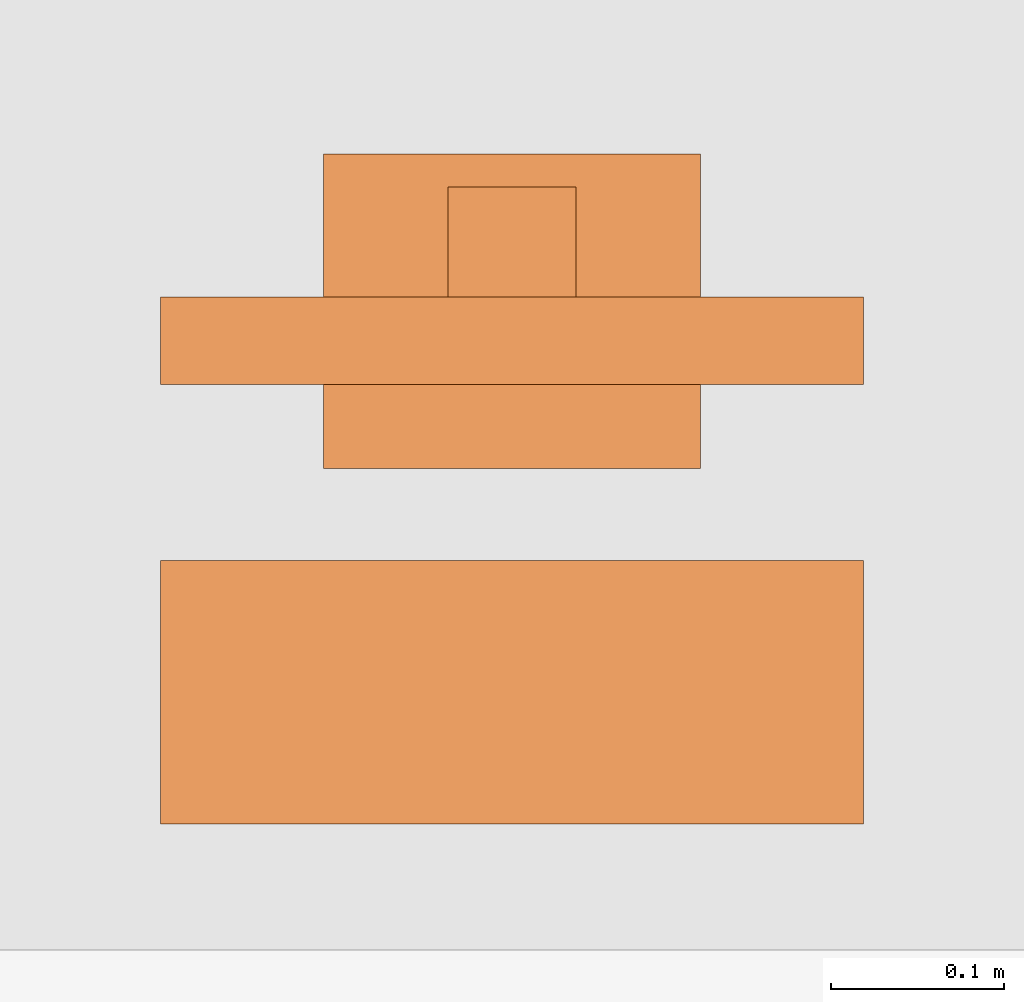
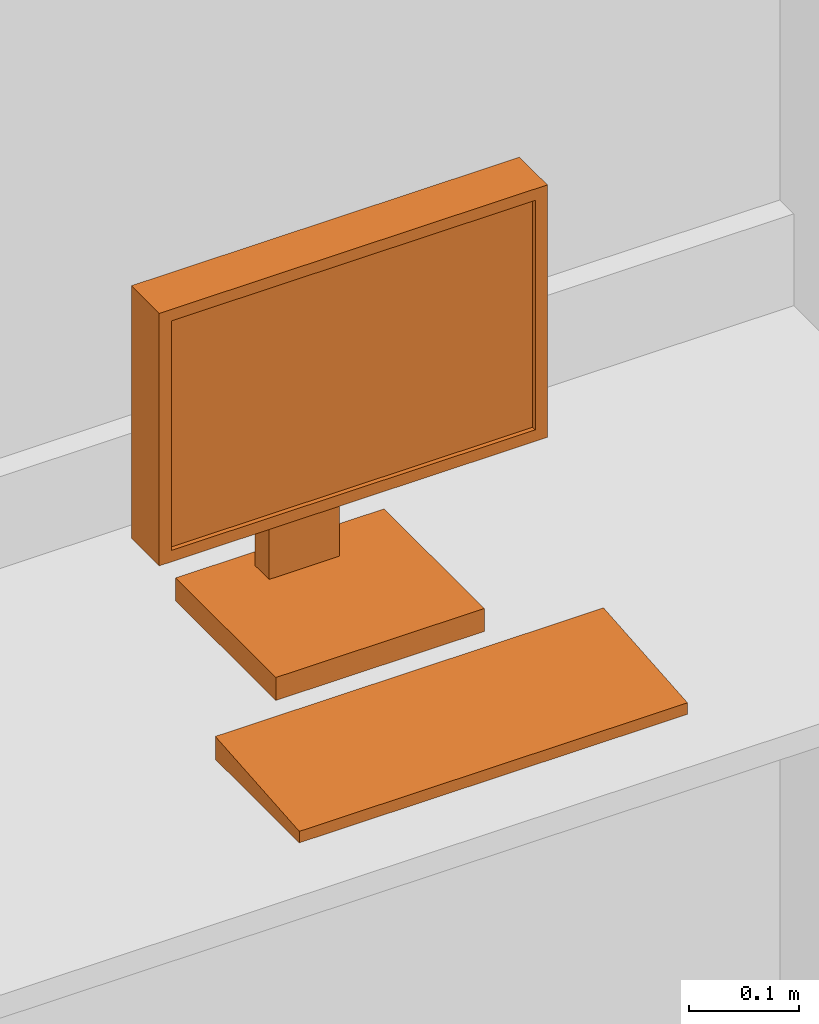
# One storey, part 8 of 8: 1 proxy.
"""IFC2X3 building model written with IfcOpenShell, lengths in feet."""

from ifc_helpers import new_model, entity, si_unit, converted_unit, derived_unit, direction, frame, origin, place, context, subcontext, project, spatial, faceted_brep, source, transform, mapped, type_object, type_shapes, element, save


model = new_model("IFC2X3")

# Units and contexts
model_context = context("Model", 3, precision=0.0001, world=origin(), true_north=direction((6.12303176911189e-17, 1.0)))
body_context = subcontext(model_context, "Body", "Model", "MODEL_VIEW")
ifc_project = project(units=[converted_unit("LENGTHUNIT", "FOOT", entity("IfcRatioMeasure", 0.3048), si_unit("LENGTHUNIT", "METRE"), dimensions=[1, 0, 0, 0, 0, 0, 0]), converted_unit("AREAUNIT", "SQUARE FOOT", entity("IfcRatioMeasure", 0.09290304), si_unit("AREAUNIT", "SQUARE_METRE"), dimensions=[2, 0, 0, 0, 0, 0, 0]), converted_unit("VOLUMEUNIT", "CUBIC FOOT", entity("IfcRatioMeasure", 0.028316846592), si_unit("VOLUMEUNIT", "CUBIC_METRE"), dimensions=[3, 0, 0, 0, 0, 0, 0]), converted_unit("PLANEANGLEUNIT", "DEGREE", entity("IfcRatioMeasure", 0.0174532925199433), si_unit("PLANEANGLEUNIT", "RADIAN"), dimensions=[0, 0, 0, 0, 0, 0, 0]), si_unit("MASSUNIT", "GRAM", prefix="KILO"), derived_unit("MASSDENSITYUNIT", [(si_unit("MASSUNIT", "GRAM", prefix="KILO"), 1), (si_unit("LENGTHUNIT", "METRE"), -3)]), si_unit("TIMEUNIT", "SECOND"), si_unit("FREQUENCYUNIT", "HERTZ"), si_unit("THERMODYNAMICTEMPERATUREUNIT", "DEGREE_CELSIUS"), derived_unit("THERMALTRANSMITTANCEUNIT", [(si_unit("MASSUNIT", "GRAM", prefix="KILO"), 1), (si_unit("THERMODYNAMICTEMPERATUREUNIT", "KELVIN"), -1), (si_unit("TIMEUNIT", "SECOND"), -3)]), derived_unit("VOLUMETRICFLOWRATEUNIT", [(si_unit("LENGTHUNIT", "METRE"), 3), (si_unit("TIMEUNIT", "SECOND"), -1)]), si_unit("ELECTRICCURRENTUNIT", "AMPERE"), si_unit("ELECTRICVOLTAGEUNIT", "VOLT"), si_unit("POWERUNIT", "WATT"), si_unit("FORCEUNIT", "NEWTON"), si_unit("ILLUMINANCEUNIT", "LUX"), si_unit("LUMINOUSFLUXUNIT", "LUMEN"), si_unit("LUMINOUSINTENSITYUNIT", "CANDELA"), derived_unit("USERDEFINED", [(si_unit("MASSUNIT", "GRAM", prefix="KILO"), -1), (si_unit("LENGTHUNIT", "METRE"), -2), (si_unit("TIMEUNIT", "SECOND"), 3), (si_unit("LUMINOUSFLUXUNIT", "LUMEN"), 1)]), derived_unit("LINEARVELOCITYUNIT", [(si_unit("LENGTHUNIT", "METRE"), 1), (si_unit("TIMEUNIT", "SECOND"), -1)]), si_unit("PRESSUREUNIT", "PASCAL"), derived_unit("USERDEFINED", [(si_unit("LENGTHUNIT", "METRE"), -2), (si_unit("MASSUNIT", "GRAM", prefix="KILO"), 1), (si_unit("TIMEUNIT", "SECOND"), -2)])], contexts=[model_context])

# Site, building, storey, space
site_placement = place(None, origin())
site = spatial("IfcSite", under=ifc_project, at=site_placement, Name="Default", CompositionType="ELEMENT")
building_placement = place(site_placement, origin())
building = spatial("IfcBuilding", under=site, at=building_placement, Name="EYE CLINIC:  OPTHALMOLOGY AND OPTOMETRY SERVICES (Ch. 233)", CompositionType="ELEMENT")
storey_placement = place(building_placement, origin())
storey = spatial("IfcBuildingStorey", under=building, at=storey_placement, Name="DATUM", CompositionType="ELEMENT", Elevation=0.0)
space_placement = place(storey_placement, origin())
space = spatial("IfcSpace", under=storey, at=space_placement, Name="(OPFD1)", CompositionType="ELEMENT", InteriorOrExteriorSpace="INTERNAL")

# Proxy
building_element_proxy_type = type_object("IfcBuildingElementProxyType", Name="M1801 - Computer, Microprocessing, With Flat Panel Monitor", PredefinedType="NOTDEFINED")
shared_shape = source(origin(), body_context, "Body", "Brep", [
    faceted_brep([(0.666666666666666, 0.437223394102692, 1.41666666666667), (-0.666666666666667, 0.437223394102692, 1.41666666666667), (-0.666666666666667, 0.271109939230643, 1.41666666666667), (0.666666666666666, 0.271109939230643, 1.41666666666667), (0.666666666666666, 0.437223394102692, 0.500000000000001), (0.666666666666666, 0.271109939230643, 0.500000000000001), (-0.666666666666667, 0.271109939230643, 0.500000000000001), (-0.666666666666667, 0.437223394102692, 0.500000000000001), (-0.625, 0.271109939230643, 1.375), (0.625, 0.271109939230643, 1.375), (0.625, 0.271109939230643, 0.541666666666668), (-0.625, 0.271109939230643, 0.541666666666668), (0.625, 0.286812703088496, 1.375), (-0.625, 0.286812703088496, 1.375), (0.625, 0.286812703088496, 0.541666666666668), (-0.625, 0.286812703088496, 0.541666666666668)], [[[0, 1, 2, 3]], [[4, 5, 6, 7]], [[1, 0, 4, 7]], [[2, 1, 7, 6]], [[3, 2, 6, 5], [8, 9, 10, 11]], [[0, 3, 5, 4]], [[12, 9, 8, 13]], [[14, 15, 11, 10]], [[12, 13, 15, 14]], [[13, 8, 11, 15]], [[9, 12, 14, 10]]]),
    faceted_brep([(0.358011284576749, 0.111770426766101, 0.0833333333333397), (0.358011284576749, 0.111770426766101, 0.0), (0.358011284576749, 0.708333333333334, 0.0), (0.358011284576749, 0.708333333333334, 0.0833333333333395), (-0.358011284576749, 0.708333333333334, 0.0833333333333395), (-0.358011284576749, 0.708333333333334, 0.0), (-0.358011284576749, 0.111770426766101, 0.0), (-0.358011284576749, 0.111770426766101, 0.0833333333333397), (0.12128795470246, 0.645556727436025, 0.104166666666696), (0.12128795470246, 0.645556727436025, 0.0833333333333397), (-0.12128795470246, 0.645556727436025, 0.0833333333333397), (-0.12128795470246, 0.645556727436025, 0.104166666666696), (0.12128795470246, 0.645556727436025, 0.958333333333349), (-0.12128795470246, 0.645556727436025, 0.958333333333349), (0.12128795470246, 0.437223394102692, 0.958333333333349), (-0.12128795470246, 0.437223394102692, 0.958333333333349), (0.12128795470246, 0.437223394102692, 0.791666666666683), (-0.12128795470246, 0.437223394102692, 0.791666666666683), (0.12128795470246, 0.562223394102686, 0.791666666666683), (-0.12128795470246, 0.562223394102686, 0.791666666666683), (0.12128795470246, 0.562223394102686, 0.0833333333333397), (-0.12128795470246, 0.562223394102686, 0.0833333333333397)], [[[0, 1, 2, 3]], [[4, 5, 6, 7]], [[8, 9, 10, 11]], [[12, 8, 11, 13]], [[14, 12, 13, 15]], [[16, 14, 15, 17]], [[18, 16, 17, 19]], [[20, 18, 19, 21]], [[0, 3, 4, 7], [9, 20, 21, 10]], [[1, 0, 7, 6]], [[2, 1, 6, 5]], [[3, 2, 5, 4]], [[20, 9, 8, 12, 14, 16, 18]], [[10, 21, 19, 17, 15, 13, 11]]]),
    faceted_brep([(0.666666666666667, -0.5625, 0.0), (0.666666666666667, -0.0624999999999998, 0.0), (0.666666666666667, -0.0624999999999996, 0.0833333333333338), (0.666666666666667, -0.5625, 0.0416666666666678), (-0.666666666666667, -0.5625, 0.0), (-0.666666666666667, -0.5625, 0.0416666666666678), (-0.666666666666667, -0.0624999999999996, 0.0833333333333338), (-0.666666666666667, -0.0624999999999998, 0.0)], [[[0, 1, 2, 3]], [[4, 5, 6, 7]], [[1, 0, 4, 7]], [[2, 1, 7, 6]], [[3, 2, 6, 5]], [[0, 3, 5, 4]]]),
])
type_shapes(building_element_proxy_type, [shared_shape])
proxy_placement = place(space_placement, frame((389.563539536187, 10.5313695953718, 3.0)))
element("IfcBuildingElementProxy", 1, at=proxy_placement, inside=space, type_object=building_element_proxy_type, Name="M1801 - Computer, Microprocessing, With Flat Panel Monitor:M1801 - Computer, Microprocessing, With Flat Panel Monitor", ObjectType="M1801 - Computer, Microprocessing, With Flat Panel Monitor", context=body_context, shape_type="MappedRepresentation", body=[
    mapped(shared_shape, transform((0.0, 0.0, 0.0), scale=1.0)),
])

save(model, "model.ifc")
